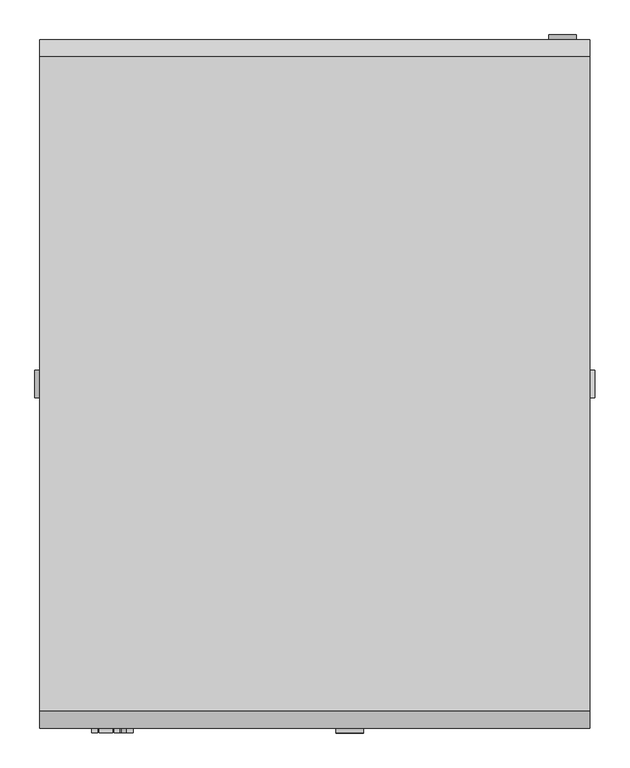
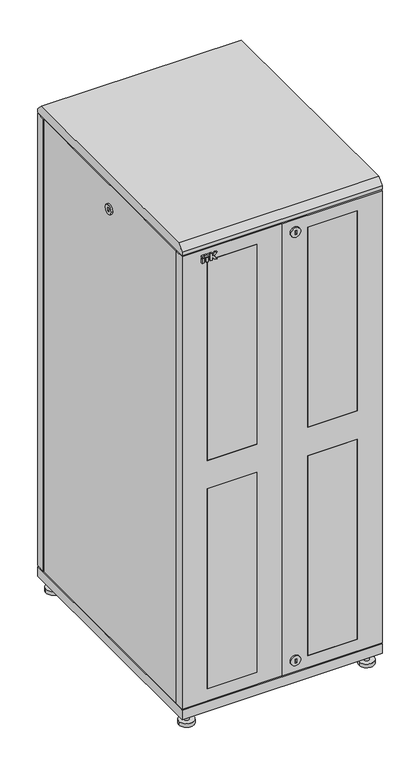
"""IFC4 building model written with IfcOpenShell, lengths in millimetres: proxy geometry, Шкафы ITK серия S_2PP : LS05-42U81-2PP-1."""

import ifcopenshell
import ifcopenshell.guid

model = None  # the IFC model being written
_history = None  # IfcOwnerHistory: only IFC2X3 demands one
_inside = {}  # id of a spatial element -> (the spatial element, [elements in it])
_under = {}  # id of a project, library or spatial element -> (it, [spatial elements below it])
_declared = {}  # id of a project -> (the project, [libraries it declares])
_typed = {}  # id of a type object -> (the type object, [elements of that type])
_made_of = {}  # id of a material, layer set ... -> (it, [elements and type objects made of it])


def new_model(schema):
    """Start an empty IFC model of exactly this schema.

    Asked for "IFC4X3", IfcOpenShell would pick the latest addendum, in which some entities
    have other attributes; the version numbers below select the first issue.
    IFC2X3 requires an IfcOwnerHistory on every rooted entity: one is made here for all.
    """
    global model, _history
    if schema == "IFC4X3":
        model = ifcopenshell.file(schema_version=(4, 3, 0, 0))
    else:
        model = ifcopenshell.file(schema=schema)
    _inside.clear()
    _under.clear()
    _declared.clear()
    _typed.clear()
    _made_of.clear()
    _history = None
    if model.schema == "IFC2X3":
        org = make("IfcOrganization", Name="unknown")
        user = make(
            "IfcPersonAndOrganization",
            ThePerson=make("IfcPerson", FamilyName="unknown"),
            TheOrganization=org,
        )
        app = make(
            "IfcApplication",
            ApplicationDeveloper=org,
            Version="unknown",
            ApplicationFullName="unknown",
            ApplicationIdentifier="unknown",
        )
        _history = make(
            "IfcOwnerHistory",
            OwningUser=user,
            OwningApplication=app,
            ChangeAction="ADDED",
            CreationDate=0,
        )
    return model


def make(cls, **values):
    """One entity of the class cls with the attributes given. An attribute that is None is left unset."""
    return model.create_entity(
        cls, **{name: value for name, value in values.items() if value is not None}
    )


def rooted(cls, **values):
    """An entity with a GlobalId (a new one), such as an element, a storey or a relation."""
    return make(cls, GlobalId=ifcopenshell.guid.new(), OwnerHistory=_history, **values)


def si_unit(unit_type, name, prefix=None):
    """IfcSIUnit, for example si_unit("LENGTHUNIT", "METRE", prefix="MILLI")."""
    return make("IfcSIUnit", UnitType=unit_type, Prefix=prefix, Name=name)


def assignment(units):
    """IfcUnitAssignment: the units of a project."""
    return None if units is None else make("IfcUnitAssignment", Units=units)


def point(xyz):
    """IfcCartesianPoint."""
    return None if xyz is None else make("IfcCartesianPoint", Coordinates=xyz)


def direction(xyz):
    """IfcDirection."""
    return None if xyz is None else make("IfcDirection", DirectionRatios=xyz)


def frame(location, z_axis=None, x_axis=None):
    """IfcAxis2Placement3D, a coordinate frame: its origin and axes. An axis left out is left unset."""
    return make(
        "IfcAxis2Placement3D",
        Location=point(location),
        Axis=direction(z_axis),
        RefDirection=direction(x_axis),
    )


def frame_2d(location, x_axis=None):
    """IfcAxis2Placement2D, a coordinate frame in the plane: its origin and x axis."""
    return make(
        "IfcAxis2Placement2D", Location=point(location), RefDirection=direction(x_axis)
    )


def origin():
    """The frame at (0, 0, 0) with its axes left unset."""
    return frame((0.0, 0.0, 0.0))


def origin_with_axes():
    """The frame at (0, 0, 0) with the z axis (0, 0, 1) and the x axis (1, 0, 0) written out."""
    return frame((0.0, 0.0, 0.0), z_axis=(0.0, 0.0, 1.0), x_axis=(1.0, 0.0, 0.0))


def place(relative_to, where):
    """IfcLocalPlacement: puts the frame where relative to a parent placement (None: the world)."""
    return make(
        "IfcLocalPlacement", PlacementRelTo=relative_to, RelativePlacement=where
    )


def context(
    kind, dimensions, precision=None, world=None, true_north=None, identifier=None
):
    """IfcGeometricRepresentationContext, for example the 3D "Model" context."""
    return make(
        "IfcGeometricRepresentationContext",
        ContextIdentifier=identifier,
        ContextType=kind,
        CoordinateSpaceDimension=dimensions,
        Precision=precision,
        WorldCoordinateSystem=world,
        TrueNorth=true_north,
    )


def project(units=None, contexts=None):
    """IfcProject with its units and contexts."""
    return rooted(
        "IfcProject",
        Name="project",
        RepresentationContexts=contexts,
        UnitsInContext=assignment(units),
    )


def spatial(cls, under=None, at=None, **own):
    """A site, building, storey or space (cls), placed at a placement, below another one or the project."""
    s = rooted(cls, ObjectPlacement=at, **own)
    if under is not None:
        _under.setdefault(under.id(), (under, []))[1].append(s)
    return s


def polyline(points):
    """IfcPolyline through the points."""
    return make("IfcPolyline", Points=[point(p) for p in points])


def circle_curve(where, radius):
    """IfcCircle in the frame where."""
    return make("IfcCircle", Position=where, Radius=radius)


def trimmed(basis, trim1, trim2, sense, master):
    """IfcTrimmedCurve: the piece of a basis curve between two trims."""
    return make(
        "IfcTrimmedCurve",
        BasisCurve=basis,
        Trim1=trim1,
        Trim2=trim2,
        SenseAgreement=sense,
        MasterRepresentation=master,
    )


def segment(curve, same_sense, transition):
    """IfcCompositeCurveSegment."""
    return make(
        "IfcCompositeCurveSegment",
        Transition=transition,
        SameSense=same_sense,
        ParentCurve=curve,
    )


def composite_curve(segments, self_intersect=None):
    """IfcCompositeCurve: segments joined end to end."""
    return make("IfcCompositeCurve", Segments=segments, SelfIntersect=self_intersect)


def outline(outer, holes=None, kind="AREA"):
    """IfcArbitraryClosedProfileDef: a profile drawn as a closed curve; with holes, ...WithVoids."""
    if holes is None:
        return make("IfcArbitraryClosedProfileDef", ProfileType=kind, OuterCurve=outer)
    return make(
        "IfcArbitraryProfileDefWithVoids",
        ProfileType=kind,
        OuterCurve=outer,
        InnerCurves=holes,
    )


def extrude(swept, where, along, depth):
    """IfcExtrudedAreaSolid: the profile swept, set in the frame where, extruded along a direction by depth."""
    return make(
        "IfcExtrudedAreaSolid",
        SweptArea=swept,
        Position=where,
        ExtrudedDirection=direction(along),
        Depth=depth,
    )


def faces_of(points, faces, orient=None, outer=None):
    """IfcFace entities. A face is a list of loops; a loop is a list of indices into points, from 0.

    orient and outer hold one flag for each loop. By default every Orientation is true, the
    first loop of a face is its IfcFaceOuterBound and the others are IfcFaceBound.
    """
    made = []
    for i, loops in enumerate(faces):
        bounds = []
        for j, loop in enumerate(loops):
            is_outer = j == 0 if outer is None else outer[i][j]
            bounds.append(
                make(
                    "IfcFaceOuterBound" if is_outer else "IfcFaceBound",
                    Bound=make("IfcPolyLoop", Polygon=[points[k] for k in loop]),
                    Orientation=True if orient is None else orient[i][j],
                )
            )
        made.append(make("IfcFace", Bounds=bounds))
    return made


def faceted_brep(points, faces, orient=None, outer=None, voids=None):
    """IfcFacetedBrep: a solid bounded by flat faces; with voids (closed shells), ...WithVoids."""
    shared = [point(p) for p in points]
    hull = make("IfcClosedShell", CfsFaces=faces_of(shared, faces, orient, outer))
    if voids is None:
        return make("IfcFacetedBrep", Outer=hull)
    return make(
        "IfcFacetedBrepWithVoids",
        Outer=hull,
        Voids=[
            make(cls, CfsFaces=faces_of(shared, fs, o, b)) for cls, fs, o, b in voids
        ],
    )


def shape(context_of_items, identifier, shape_type, items):
    """IfcShapeRepresentation: the items that make up one representation, for example the "Body"."""
    return make(
        "IfcShapeRepresentation",
        ContextOfItems=context_of_items,
        RepresentationIdentifier=identifier,
        RepresentationType=shape_type,
        Items=items,
    )


def source(mapping_origin, context_of_items, identifier, shape_type, items):
    """IfcRepresentationMap: a shape defined once, which mapped items show again and again."""
    return make(
        "IfcRepresentationMap",
        MappingOrigin=mapping_origin,
        MappedRepresentation=shape(context_of_items, identifier, shape_type, items),
    )


def transform(
    local_origin,
    x_axis=None,
    y_axis=None,
    z_axis=None,
    scale=None,
    scale2=None,
    scale3=None,
    uniform=True,
):
    """IfcCartesianTransformationOperator3D, or its non-uniform kind. x_axis, y_axis, z_axis: its Axis1, 2, 3."""
    if uniform:
        return make(
            "IfcCartesianTransformationOperator3D",
            Axis1=direction(x_axis),
            Axis2=direction(y_axis),
            LocalOrigin=point(local_origin),
            Scale=scale,
            Axis3=direction(z_axis),
        )
    return make(
        "IfcCartesianTransformationOperator3DnonUniform",
        Axis1=direction(x_axis),
        Axis2=direction(y_axis),
        LocalOrigin=point(local_origin),
        Scale=scale,
        Axis3=direction(z_axis),
        Scale2=scale2,
        Scale3=scale3,
    )


def mapped(mapping_source, mapping_target):
    """IfcMappedItem: shows the shape of a source again, moved by a transform."""
    return make(
        "IfcMappedItem", MappingSource=mapping_source, MappingTarget=mapping_target
    )


def made_of(thing, what):
    """Note that an element or type object is made of a material, layer set ...; save() writes the relation."""
    if what is not None:
        _made_of.setdefault(what.id(), (what, []))[1].append(thing)
    return thing


def element(
    cls,
    number,
    at=None,
    inside=None,
    cuts=None,
    type_object=None,
    material=None,
    context=None,
    identifier="Body",
    shape_type=None,
    held_by="IfcProductDefinitionShape",
    body=None,
    shapes=None,
    **own,
):
    """One element of the class cls, such as IfcWall. Its Tag is "e" and its number.

    at: its placement. inside: the storey or other place that contains it. cuts: it is an
    opening in that element (IfcRelVoidsElement). A single representation is given by context,
    identifier, shape_type and body (its items); several are given by shapes. held_by: the class
    of the entity that holds the representations. save() writes the other relations.
    """
    e = rooted(cls, Tag="e%d" % number, ObjectPlacement=at, **own)
    if body is not None:
        shapes = [shape(context, identifier, shape_type, body)]
    if shapes is not None:
        e.Representation = make(held_by, Representations=shapes)
    if inside is not None:
        _inside.setdefault(inside.id(), (inside, []))[1].append(e)
    if cuts is not None:
        rooted(
            "IfcRelVoidsElement", RelatingBuildingElement=cuts, RelatedOpeningElement=e
        )
    if type_object is not None:
        _typed.setdefault(type_object.id(), (type_object, []))[1].append(e)
    return made_of(e, material)


def aggregate(whole, parts):
    """IfcRelAggregates: a whole, such as a stair, and the parts it consists of."""
    return rooted("IfcRelAggregates", RelatingObject=whole, RelatedObjects=parts)


def save(model, path):
    """Write the relations noted so far, then the file.

    IfcRelAggregates (storeys below a building ...), IfcRelContainedInSpatialStructure (elements
    in a storey), IfcRelDefinesByType, IfcRelAssociatesMaterial and IfcRelDeclares: one each for
    every whole, place, type object, material and project.
    """
    for whole, parts in _under.values():
        aggregate(whole, parts)
    for where, things in _inside.values():
        rooted(
            "IfcRelContainedInSpatialStructure",
            RelatedElements=things,
            RelatingStructure=where,
        )
    for kind, things in _typed.values():
        rooted("IfcRelDefinesByType", RelatedObjects=things, RelatingType=kind)
    for what, things in _made_of.values():
        rooted("IfcRelAssociatesMaterial", RelatedObjects=things, RelatingMaterial=what)
    for by, libraries in _declared.values():
        rooted("IfcRelDeclares", RelatingContext=by, RelatedDefinitions=libraries)
    model.write(path)


def electrical_fixtures_1a1d356b(model_context):
    return source(origin(), model_context, "Body", "SolidModel", [
        extrude(outline(composite_curve([segment(trimmed(circle_curve(frame_2d((145.0, 50.5)), 20.0), [point((145.0, 30.5))], [point((145.0, 70.5))], False, "CARTESIAN"), True, "CONTINUOUS"), segment(trimmed(circle_curve(frame_2d((145.0, 50.5)), 20.0), [point((145.0, 70.5))], [point((145.0, 30.5))], False, "CARTESIAN"), True, "CONTINUOUS")], self_intersect=False), holes=[polyline([(136.7814397, 53.5), (136.7814397, 47.5), (153.2185603, 47.5), (153.2185603, 53.5), (136.7814397, 53.5)])]), frame((0.0, -507.0, 0.0), z_axis=(0.0, 1.0, 0.0), x_axis=(0.0, 0.0, 1.0)), (0.0, 0.0, 1.0), 7.0),
        extrude(outline(composite_curve([segment(trimmed(circle_curve(frame_2d((1955.0, 50.5)), 20.0), [point((1955.0, 30.5))], [point((1955.0, 70.5))], False, "CARTESIAN"), True, "CONTINUOUS"), segment(trimmed(circle_curve(frame_2d((1955.0, 50.5)), 20.0), [point((1955.0, 70.5))], [point((1955.0, 30.5))], False, "CARTESIAN"), True, "CONTINUOUS")], self_intersect=False), holes=[polyline([(1946.7814397, 53.5), (1946.7814397, 47.5), (1963.2185603, 47.5), (1963.2185603, 53.5), (1946.7814397, 53.5)])]), frame((0.0, -507.0, 0.0), z_axis=(0.0, 1.0, 0.0), x_axis=(0.0, 0.0, 1.0)), (0.0, 0.0, 1.0), 7.0),
        extrude(outline(polyline([(-315.9746193, -507.0), (-324.197592, -507.0), (-324.197592, -500.0), (-315.9746193, -500.0), (-315.9746193, -507.0)])), frame((0.0, 0.0, 1955.0), z_axis=(0.0, 0.0, 1.0), x_axis=(1.0, 0.0, 0.0)), (0.0, 0.0, 1.0), 18.8087618),
        extrude(outline(polyline([(-299.9605777, -507.0), (-307.7053315, -507.0), (-307.7053315, -500.0), (-299.9605777, -500.0), (-299.9605777, -507.0)])), frame((0.0, 0.0, 1955.0), z_axis=(0.0, 0.0, 1.0), x_axis=(1.0, 0.0, 0.0)), (0.0, 0.0, 1.0), 18.8087618),
        extrude(outline(polyline([(-315.9746193, -507.0), (-324.197592, -507.0), (-324.197592, -500.0), (-315.9746193, -500.0), (-315.9746193, -507.0)])), frame((0.0, 0.0, 1976.4305892), z_axis=(0.0, 0.0, 1.0), x_axis=(1.0, 0.0, 0.0)), (0.0, 0.0, 1.0), 7.9794747),
        extrude(outline(polyline([(1955.0, -291.5184175), (1955.0, -283.7669278), (1966.0271455, -283.7669278), (1966.0271455, -280.8031229), (1955.0, -273.6420108), (1955.0, -264.197592), (1969.7278745, -274.8980192), (1984.410064, -264.197592), (1984.410064, -273.6420108), (1973.3829184, -280.8031229), (1973.3829184, -283.7669278), (1984.410064, -283.7669278), (1984.410064, -291.5184175), (1955.0, -291.5184175)])), frame((0.0, -507.0, 0.0), z_axis=(0.0, 1.0, 0.0), x_axis=(0.0, 0.0, 1.0)), (0.0, 0.0, 1.0), 7.0),
        extrude(outline(polyline([(-294.0851324, -507.0), (-313.5807768, -507.0), (-313.5807768, -500.0), (-294.0851324, -500.0), (-294.0851324, -507.0)])), frame((0.0, 0.0, 1976.4305892), z_axis=(0.0, 0.0, 1.0), x_axis=(1.0, 0.0, 0.0)), (0.0, 0.0, 1.0), 7.9794747),
        faceted_brep([(-360.0, -480.0, 2005.0), (-360.0, -445.0, 2005.0), (-370.0, -445.0, 2005.0), (-370.0, -460.0, 2005.0), (-400.0, -460.0, 2005.0), (-400.0, -500.0, 2005.0), (-1.0, -500.0, 2005.0), (-1.0, -480.0, 2005.0), (-400.0, -500.0, 95.0), (-400.0, -460.0, 95.0), (-370.0, -460.0, 95.0), (-370.0, -445.0, 95.0), (-360.0, -445.0, 95.0), (-360.0, -480.0, 95.0), (-1.0, -480.0, 95.0), (-1.0, -500.0, 95.0), (-300.0, -500.0, 990.0), (-101.0, -500.0, 990.0), (-101.0, -500.0, 145.0), (-300.0, -500.0, 145.0), (-300.0, -500.0, 1955.0), (-101.0, -500.0, 1955.0), (-101.0, -500.0, 1110.0), (-300.0, -500.0, 1110.0), (-300.0, -480.0, 1110.0), (-101.0, -480.0, 1110.0), (-101.0, -480.0, 1955.0), (-300.0, -480.0, 1955.0), (-300.0, -480.0, 145.0), (-101.0, -480.0, 145.0), (-101.0, -480.0, 990.0), (-300.0, -480.0, 990.0)], [[[0, 1, 2, 3, 4, 5, 6, 7]], [[8, 9, 10, 11, 12, 13, 14, 15]], [[6, 5, 8, 15], [16, 17, 18, 19], [20, 21, 22, 23]], [[5, 4, 9, 8]], [[4, 3, 10, 9]], [[0, 7, 14, 13], [24, 25, 26, 27], [28, 29, 30, 31]], [[24, 27, 20, 23]], [[28, 31, 16, 19]], [[23, 22, 25, 24]], [[17, 16, 31, 30]], [[1, 0, 13, 12]], [[2, 1, 12, 11]], [[3, 2, 11, 10]], [[26, 25, 22, 21]], [[30, 29, 18, 17]], [[7, 6, 15, 14]], [[21, 20, 27, 26]], [[19, 18, 29, 28]]]),
        faceted_brep([(1.0, -480.0, 2005.0), (1.0, -500.0, 2005.0), (400.0, -500.0, 2005.0), (400.0, -460.0, 2005.0), (370.0, -460.0, 2005.0), (370.0, -445.0, 2005.0), (360.0, -445.0, 2005.0), (360.0, -480.0, 2005.0), (1.0, -500.0, 95.0), (1.0, -480.0, 95.0), (360.0, -480.0, 95.0), (360.0, -445.0, 95.0), (370.0, -445.0, 95.0), (370.0, -460.0, 95.0), (400.0, -460.0, 95.0), (400.0, -500.0, 95.0), (300.0, -500.0, 1110.0), (101.0, -500.0, 1110.0), (101.0, -500.0, 1955.0), (300.0, -500.0, 1955.0), (300.0, -500.0, 145.0), (101.0, -500.0, 145.0), (101.0, -500.0, 990.0), (300.0, -500.0, 990.0), (300.0, -480.0, 990.0), (101.0, -480.0, 990.0), (101.0, -480.0, 145.0), (300.0, -480.0, 145.0), (300.0, -480.0, 1955.0), (101.0, -480.0, 1955.0), (101.0, -480.0, 1110.0), (300.0, -480.0, 1110.0)], [[[0, 1, 2, 3, 4, 5, 6, 7]], [[8, 9, 10, 11, 12, 13, 14, 15]], [[2, 1, 8, 15], [16, 17, 18, 19], [20, 21, 22, 23]], [[10, 9, 0, 7], [24, 25, 26, 27], [28, 29, 30, 31]], [[24, 27, 20, 23]], [[28, 31, 16, 19]], [[3, 2, 15, 14]], [[4, 3, 14, 13]], [[5, 4, 13, 12]], [[6, 5, 12, 11]], [[7, 6, 11, 10]], [[1, 0, 9, 8]], [[26, 25, 22, 21]], [[30, 29, 18, 17]], [[17, 16, 31, 30]], [[23, 22, 25, 24]], [[19, 18, 29, 28]], [[21, 20, 27, 26]]]),
        extrude(outline(polyline([(-101.0, -500.0), (-300.0, -500.0), (-300.0, -480.0), (-101.0, -480.0), (-101.0, -500.0)])), frame((0.0, 0.0, 1110.0), z_axis=(0.0, 0.0, 1.0), x_axis=(1.0, 0.0, 0.0)), (0.0, 0.0, 1.0), 845.0),
        extrude(outline(polyline([(-101.0, -500.0), (-300.0, -500.0), (-300.0, -480.0), (-101.0, -480.0), (-101.0, -500.0)])), frame((0.0, 0.0, 145.0), z_axis=(0.0, 0.0, 1.0), x_axis=(1.0, 0.0, 0.0)), (0.0, 0.0, 1.0), 845.0),
        extrude(outline(polyline([(300.0, -500.0), (101.0, -500.0), (101.0, -480.0), (300.0, -480.0), (300.0, -500.0)])), frame((0.0, 0.0, 1110.0), z_axis=(0.0, 0.0, 1.0), x_axis=(1.0, 0.0, 0.0)), (0.0, 0.0, 1.0), 845.0),
        extrude(outline(polyline([(300.0, -500.0), (101.0, -500.0), (101.0, -480.0), (300.0, -480.0), (300.0, -500.0)])), frame((0.0, 0.0, 145.0), z_axis=(0.0, 0.0, 1.0), x_axis=(1.0, 0.0, 0.0)), (0.0, 0.0, 1.0), 845.0),
        extrude(outline(composite_curve([segment(trimmed(circle_curve(frame_2d((-360.0, 460.0)), 10.0), [point((-350.0, 460.0))], [point((-370.0, 460.0))], False, "CARTESIAN"), True, "CONTINUOUS"), segment(trimmed(circle_curve(frame_2d((-360.0, 460.0)), 10.0), [point((-370.0, 460.0))], [point((-350.0, 460.0))], False, "CARTESIAN"), True, "CONTINUOUS")], self_intersect=False)), frame((0.0, 0.0, 15.0), z_axis=(0.0, 0.0, 1.0), x_axis=(1.0, 0.0, 0.0)), (0.0, 0.0, 1.0), 35.0),
        extrude(outline(composite_curve([segment(trimmed(circle_curve(frame_2d((360.0, 460.0)), 10.0), [point((370.0, 460.0))], [point((350.0, 460.0))], False, "CARTESIAN"), True, "CONTINUOUS"), segment(trimmed(circle_curve(frame_2d((360.0, 460.0)), 10.0), [point((350.0, 460.0))], [point((370.0, 460.0))], False, "CARTESIAN"), True, "CONTINUOUS")], self_intersect=False)), frame((0.0, 0.0, 15.0), z_axis=(0.0, 0.0, 1.0), x_axis=(1.0, 0.0, 0.0)), (0.0, 0.0, 1.0), 35.0),
        extrude(outline(composite_curve([segment(trimmed(circle_curve(frame_2d((-360.0, -460.0)), 10.0), [point((-350.0, -460.0))], [point((-370.0, -460.0))], False, "CARTESIAN"), True, "CONTINUOUS"), segment(trimmed(circle_curve(frame_2d((-360.0, -460.0)), 10.0), [point((-370.0, -460.0))], [point((-350.0, -460.0))], False, "CARTESIAN"), True, "CONTINUOUS")], self_intersect=False)), frame((0.0, 0.0, 15.0), z_axis=(0.0, 0.0, 1.0), x_axis=(1.0, 0.0, 0.0)), (0.0, 0.0, 1.0), 35.0),
        extrude(outline(composite_curve([segment(trimmed(circle_curve(frame_2d((360.0, -460.0)), 10.0), [point((370.0, -460.0))], [point((350.0, -460.0))], False, "CARTESIAN"), True, "CONTINUOUS"), segment(trimmed(circle_curve(frame_2d((360.0, -460.0)), 10.0), [point((350.0, -460.0))], [point((370.0, -460.0))], False, "CARTESIAN"), True, "CONTINUOUS")], self_intersect=False)), frame((0.0, 0.0, 15.0), z_axis=(0.0, 0.0, 1.0), x_axis=(1.0, 0.0, 0.0)), (0.0, 0.0, 1.0), 35.0),
        extrude(outline(composite_curve([segment(trimmed(circle_curve(frame_2d((-360.0, 460.0)), 30.0), [point((-330.0, 460.0))], [point((-390.0, 460.0))], False, "CARTESIAN"), True, "CONTINUOUS"), segment(trimmed(circle_curve(frame_2d((-360.0, 460.0)), 30.0), [point((-390.0, 460.0))], [point((-330.0, 460.0))], False, "CARTESIAN"), True, "CONTINUOUS")], self_intersect=False)), origin_with_axes(), (0.0, 0.0, 1.0), 15.0),
        extrude(outline(composite_curve([segment(trimmed(circle_curve(frame_2d((360.0, 460.0)), 30.0), [point((390.0, 460.0))], [point((330.0, 460.0))], False, "CARTESIAN"), True, "CONTINUOUS"), segment(trimmed(circle_curve(frame_2d((360.0, 460.0)), 30.0), [point((330.0, 460.0))], [point((390.0, 460.0))], False, "CARTESIAN"), True, "CONTINUOUS")], self_intersect=False)), origin_with_axes(), (0.0, 0.0, 1.0), 15.0),
        extrude(outline(composite_curve([segment(trimmed(circle_curve(frame_2d((-360.0, -460.0)), 30.0), [point((-330.0, -460.0))], [point((-390.0, -460.0))], False, "CARTESIAN"), True, "CONTINUOUS"), segment(trimmed(circle_curve(frame_2d((-360.0, -460.0)), 30.0), [point((-390.0, -460.0))], [point((-330.0, -460.0))], False, "CARTESIAN"), True, "CONTINUOUS")], self_intersect=False)), origin_with_axes(), (0.0, 0.0, 1.0), 15.0),
        extrude(outline(composite_curve([segment(trimmed(circle_curve(frame_2d((360.0, -460.0)), 30.0), [point((390.0, -460.0))], [point((330.0, -460.0))], False, "CARTESIAN"), True, "CONTINUOUS"), segment(trimmed(circle_curve(frame_2d((360.0, -460.0)), 30.0), [point((330.0, -460.0))], [point((390.0, -460.0))], False, "CARTESIAN"), True, "CONTINUOUS")], self_intersect=False)), origin_with_axes(), (0.0, 0.0, 1.0), 15.0),
        extrude(outline(polyline([(-475.0, 2050.0), (475.0, 2050.0), (500.0, 2025.0), (500.0, 2010.0), (-500.0, 2010.0), (-500.0, 2025.0), (-475.0, 2050.0)])), frame((-400.0, 0.0, 0.0), z_axis=(1.0, 0.0, 0.0), x_axis=(0.0, 1.0, 0.0)), (0.0, 0.0, 1.0), 800.0),
        extrude(outline(polyline([(360.0, 460.0), (360.0, 445.0), (390.0, 445.0), (390.0, -445.0), (360.0, -445.0), (360.0, -460.0), (345.0, -460.0), (345.0, -480.0), (-345.0, -480.0), (-345.0, -460.0), (-360.0, -460.0), (-360.0, -445.0), (-390.0, -445.0), (-390.0, 445.0), (-360.0, 445.0), (-360.0, 460.0), (-345.0, 460.0), (-345.0, 490.0), (345.0, 490.0), (345.0, 460.0), (360.0, 460.0)])), frame((0.0, 0.0, 90.0), z_axis=(0.0, 0.0, 1.0), x_axis=(1.0, 0.0, 0.0)), (0.0, 0.0, 1.0), 5.0),
        extrude(outline(polyline([(360.0, 460.0), (360.0, 445.0), (390.0, 445.0), (390.0, -445.0), (360.0, -445.0), (360.0, -460.0), (345.0, -460.0), (345.0, -480.0), (-345.0, -480.0), (-345.0, -460.0), (-360.0, -460.0), (-360.0, -445.0), (-390.0, -445.0), (-390.0, 445.0), (-360.0, 445.0), (-360.0, 460.0), (-345.0, 460.0), (-345.0, 490.0), (345.0, 490.0), (345.0, 460.0), (360.0, 460.0)])), frame((0.0, 0.0, 2005.0), z_axis=(0.0, 0.0, 1.0), x_axis=(1.0, 0.0, 0.0)), (0.0, 0.0, 1.0), 5.0),
        extrude(outline(polyline([(400.0, -500.0), (-400.0, -500.0), (-400.0, 500.0), (400.0, 500.0), (400.0, -500.0)])), frame((0.0, 0.0, 50.0), z_axis=(0.0, 0.0, 1.0), x_axis=(1.0, 0.0, 0.0)), (0.0, 0.0, 1.0), 40.0),
        extrude(outline(composite_curve([segment(trimmed(circle_curve(frame_2d((1955.0, 360.0)), 20.0), [point((1955.0, 340.0))], [point((1955.0, 380.0))], False, "CARTESIAN"), True, "CONTINUOUS"), segment(trimmed(circle_curve(frame_2d((1955.0, 360.0)), 20.0), [point((1955.0, 380.0))], [point((1955.0, 340.0))], False, "CARTESIAN"), True, "CONTINUOUS")], self_intersect=False), holes=[polyline([(1963.2185603, 363.0), (1946.7814397, 363.0), (1946.7814397, 357.0), (1963.2185603, 357.0), (1963.2185603, 363.0)])]), frame((0.0, 500.0, 0.0), z_axis=(0.0, 1.0, 0.0), x_axis=(0.0, 0.0, 1.0)), (0.0, 0.0, 1.0), 7.0),
        faceted_brep([(360.0, 490.0, 2005.0), (360.0, 445.0, 2005.0), (370.0, 445.0, 2005.0), (370.0, 460.0, 2005.0), (400.0, 460.0, 2005.0), (400.0, 500.0, 2005.0), (-400.0, 500.0, 2005.0), (-400.0, 460.0, 2005.0), (-370.0, 460.0, 2005.0), (-370.0, 445.0, 2005.0), (-360.0, 445.0, 2005.0), (-360.0, 490.0, 2005.0), (400.0, 500.0, 95.0), (400.0, 460.0, 95.0), (370.0, 460.0, 95.0), (370.0, 445.0, 95.0), (360.0, 445.0, 95.0), (360.0, 490.0, 95.0), (-360.0, 490.0, 95.0), (-360.0, 445.0, 95.0), (-370.0, 445.0, 95.0), (-370.0, 460.0, 95.0), (-400.0, 460.0, 95.0), (-400.0, 500.0, 95.0), (-300.0, 500.0, 145.0), (-100.0, 500.0, 145.0), (-100.0, 500.0, 970.0), (-300.0, 500.0, 970.0), (300.0, 500.0, 970.0), (100.0, 500.0, 970.0), (100.0, 500.0, 145.0), (300.0, 500.0, 145.0), (-300.0, 500.0, 1090.0), (-100.0, 500.0, 1090.0), (-100.0, 500.0, 1955.0), (-300.0, 500.0, 1955.0), (300.0, 500.0, 1955.0), (100.0, 500.0, 1955.0), (100.0, 500.0, 1090.0), (300.0, 500.0, 1090.0), (-300.0, 490.0, 970.0), (-100.0, 490.0, 970.0), (-100.0, 490.0, 145.0), (-300.0, 490.0, 145.0), (-300.0, 490.0, 1955.0), (-100.0, 490.0, 1955.0), (-100.0, 490.0, 1090.0), (-300.0, 490.0, 1090.0), (300.0, 490.0, 1090.0), (100.0, 490.0, 1090.0), (100.0, 490.0, 1955.0), (300.0, 490.0, 1955.0), (300.0, 490.0, 145.0), (100.0, 490.0, 145.0), (100.0, 490.0, 970.0), (300.0, 490.0, 970.0)], [[[0, 1, 2, 3, 4, 5, 6, 7, 8, 9, 10, 11]], [[12, 13, 14, 15, 16, 17, 18, 19, 20, 21, 22, 23]], [[6, 5, 12, 23], [24, 25, 26, 27], [28, 29, 30, 31], [32, 33, 34, 35], [36, 37, 38, 39]], [[7, 6, 23, 22]], [[8, 7, 22, 21]], [[11, 10, 19, 18]], [[0, 11, 18, 17], [40, 41, 42, 43], [44, 45, 46, 47], [48, 49, 50, 51], [52, 53, 54, 55]], [[1, 0, 17, 16]], [[4, 3, 14, 13]], [[5, 4, 13, 12]], [[9, 8, 21, 20]], [[10, 9, 20, 19]], [[2, 1, 16, 15]], [[3, 2, 15, 14]], [[24, 27, 40, 43]], [[32, 35, 44, 47]], [[48, 51, 36, 39]], [[52, 55, 28, 31]], [[54, 53, 30, 29]], [[50, 49, 38, 37]], [[42, 41, 26, 25]], [[46, 45, 34, 33]], [[43, 42, 25, 24]], [[53, 52, 31, 30]], [[49, 48, 39, 38]], [[55, 54, 29, 28]], [[47, 46, 33, 32]], [[41, 40, 27, 26]], [[45, 44, 35, 34]], [[51, 50, 37, 36]]]),
        extrude(outline(polyline([(-100.0, 490.0), (-300.0, 490.0), (-300.0, 500.0), (-100.0, 500.0), (-100.0, 490.0)])), frame((0.0, 0.0, 1090.0), z_axis=(0.0, 0.0, 1.0), x_axis=(1.0, 0.0, 0.0)), (0.0, 0.0, 1.0), 865.0),
        extrude(outline(polyline([(300.0, 490.0), (100.0, 490.0), (100.0, 500.0), (300.0, 500.0), (300.0, 490.0)])), frame((0.0, 0.0, 1090.0), z_axis=(0.0, 0.0, 1.0), x_axis=(1.0, 0.0, 0.0)), (0.0, 0.0, 1.0), 865.0),
        extrude(outline(polyline([(300.0, 490.0), (100.0, 490.0), (100.0, 500.0), (300.0, 500.0), (300.0, 490.0)])), frame((0.0, 0.0, 145.0), z_axis=(0.0, 0.0, 1.0), x_axis=(1.0, 0.0, 0.0)), (0.0, 0.0, 1.0), 825.0),
        extrude(outline(polyline([(-100.0, 490.0), (-300.0, 490.0), (-300.0, 500.0), (-100.0, 500.0), (-100.0, 490.0)])), frame((0.0, 0.0, 145.0), z_axis=(0.0, 0.0, 1.0), x_axis=(1.0, 0.0, 0.0)), (0.0, 0.0, 1.0), 825.0),
        extrude(outline(composite_curve([segment(trimmed(circle_curve(frame_2d((0.0, 1905.0)), 20.0), [point((-20.0, 1905.0))], [point((20.0, 1905.0))], False, "CARTESIAN"), True, "CONTINUOUS"), segment(trimmed(circle_curve(frame_2d((0.0, 1905.0)), 20.0), [point((20.0, 1905.0))], [point((-20.0, 1905.0))], False, "CARTESIAN"), True, "CONTINUOUS")], self_intersect=False), holes=[polyline([(3.0, 1896.7814397), (3.0, 1913.2185603), (-3.0, 1913.2185603), (-3.0, 1896.7814397), (3.0, 1896.7814397)])]), frame((400.0, 0.0, 0.0), z_axis=(1.0, 0.0, 0.0), x_axis=(0.0, 1.0, 0.0)), (0.0, 0.0, 1.0), 7.0),
        extrude(outline(composite_curve([segment(trimmed(circle_curve(frame_2d((0.0, 1905.0)), 20.0), [point((20.0, 1905.0))], [point((-20.0, 1905.0))], False, "CARTESIAN"), True, "CONTINUOUS"), segment(trimmed(circle_curve(frame_2d((0.0, 1905.0)), 20.0), [point((-20.0, 1905.0))], [point((20.0, 1905.0))], False, "CARTESIAN"), True, "CONTINUOUS")], self_intersect=False), holes=[polyline([(-3.0, 1896.7814397), (3.0, 1896.7814397), (3.0, 1913.2185603), (-3.0, 1913.2185603), (-3.0, 1896.7814397)])]), frame((-407.0, 0.0, 0.0), z_axis=(1.0, 0.0, 0.0), x_axis=(0.0, 1.0, 0.0)), (0.0, 0.0, 1.0), 7.0),
        extrude(outline(polyline([(-370.0, 455.0), (-370.0, 445.0), (-389.9803177, 445.0), (-389.9803177, -445.0), (-369.9803177, -445.0), (-369.9803177, -455.0), (-400.0, -455.0), (-400.0, 455.0), (-370.0, 455.0)])), frame((0.0, 0.0, 95.0), z_axis=(0.0, 0.0, 1.0), x_axis=(1.0, 0.0, 0.0)), (0.0, 0.0, 1.0), 1910.0),
        extrude(outline(polyline([(369.9803177, 455.0), (400.0, 455.0), (400.0, -455.0), (369.9803177, -455.0), (369.9803177, -445.0), (389.9803177, -445.0), (389.9803177, 445.0), (369.9803177, 445.0), (369.9803177, 455.0)])), frame((0.0, 0.0, 95.0), z_axis=(0.0, 0.0, 1.0), x_axis=(1.0, 0.0, 0.0)), (0.0, 0.0, 1.0), 1910.0),
    ])


if __name__ == "__main__":
    model = new_model("IFC4")
    model_context = context("Model", 3, world=origin())
    ifc_project = project(units=[si_unit("LENGTHUNIT", "METRE", prefix="MILLI")], contexts=[model_context])
    site = spatial("IfcSite", under=ifc_project)
    building = spatial("IfcBuilding", under=site)
    placement = place(None, origin())
    electrical_fixtures_shape = electrical_fixtures_1a1d356b(model_context)
    element("IfcBuildingElementProxy", 1, Name="Шкафы ITK серия S_2PP : LS05-42U81-2PP-1", ObjectType="Шкафы ITK серия S_2PP : LS05-42U81-2PP-1", at=placement, inside=building, context=model_context, shape_type="MappedRepresentation", body=[
        mapped(electrical_fixtures_shape, transform((0.0, 0.0, 0.0), x_axis=(1.0, 0.0, 0.0), y_axis=(0.0, 1.0, 0.0), z_axis=(0.0, 0.0, 1.0))),
    ])
    save(model, "model.ifc")
